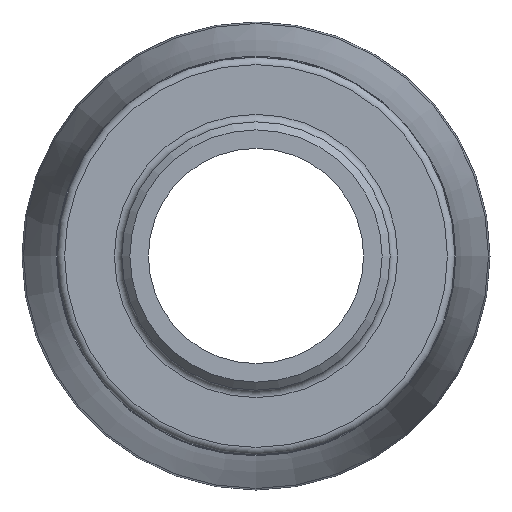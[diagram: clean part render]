
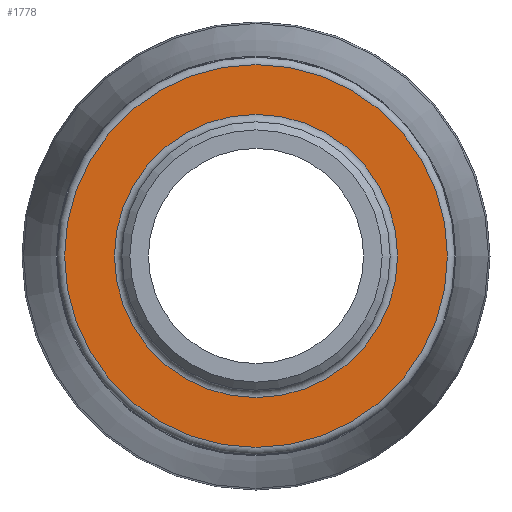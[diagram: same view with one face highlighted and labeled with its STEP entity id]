
A CAD part, left-side view. The second image highlights one B-rep face of the part: STEP entity #1778.
In plain terms, the highlighted planar face has unit normal (-1, 0, 0).
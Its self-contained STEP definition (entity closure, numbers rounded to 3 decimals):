
#93=FACE_BOUND('',#322,.T.);
#105=PLANE('',#1973);
#219=FACE_OUTER_BOUND('',#321,.T.);
#321=EDGE_LOOP('',(#1336,#1337));
#322=EDGE_LOOP('',(#1338,#1339));
#639=CIRCLE('',#1971,17.55);
#640=CIRCLE('',#1972,17.55);
#641=CIRCLE('',#1974,23.725);
#642=CIRCLE('',#1975,23.725);
#770=VERTEX_POINT('',#3158);
#771=VERTEX_POINT('',#3160);
#772=VERTEX_POINT('',#3164);
#773=VERTEX_POINT('',#3165);
#976=EDGE_CURVE('',#770,#771,#639,.T.);
#977=EDGE_CURVE('',#771,#770,#640,.T.);
#978=EDGE_CURVE('',#772,#773,#641,.T.);
#979=EDGE_CURVE('',#773,#772,#642,.T.);
#1336=ORIENTED_EDGE('',*,*,#978,.F.);
#1337=ORIENTED_EDGE('',*,*,#979,.F.);
#1338=ORIENTED_EDGE('',*,*,#977,.F.);
#1339=ORIENTED_EDGE('',*,*,#976,.F.);
#1778=ADVANCED_FACE('',(#219,#93),#105,.T.);
#1971=AXIS2_PLACEMENT_3D('',#3161,#2313,#2314);
#1972=AXIS2_PLACEMENT_3D('',#3162,#2315,#2316);
#1973=AXIS2_PLACEMENT_3D('',#3163,#2317,#2318);
#1974=AXIS2_PLACEMENT_3D('',#3166,#2319,#2320);
#1975=AXIS2_PLACEMENT_3D('',#3167,#2321,#2322);
#2313=DIRECTION('center_axis',(-1.,0.,0.));
#2314=DIRECTION('ref_axis',(0.,-1.,0.));
#2315=DIRECTION('center_axis',(-1.,0.,0.));
#2316=DIRECTION('ref_axis',(0.,-1.,0.));
#2317=DIRECTION('center_axis',(-1.,0.,0.));
#2318=DIRECTION('ref_axis',(0.,0.,1.));
#2319=DIRECTION('center_axis',(1.,0.,0.));
#2320=DIRECTION('ref_axis',(0.,-1.,0.));
#2321=DIRECTION('center_axis',(1.,0.,0.));
#2322=DIRECTION('ref_axis',(0.,-1.,0.));
#3158=CARTESIAN_POINT('',(19.,0.,17.55));
#3160=CARTESIAN_POINT('',(19.,17.55,0.));
#3161=CARTESIAN_POINT('Origin',(19.,0.,0.));
#3162=CARTESIAN_POINT('Origin',(19.,0.,0.));
#3163=CARTESIAN_POINT('Origin',(19.,24.65,0.));
#3164=CARTESIAN_POINT('',(19.,23.725,0.));
#3165=CARTESIAN_POINT('',(19.,0.,23.725));
#3166=CARTESIAN_POINT('Origin',(19.,0.,0.));
#3167=CARTESIAN_POINT('Origin',(19.,0.,0.));
